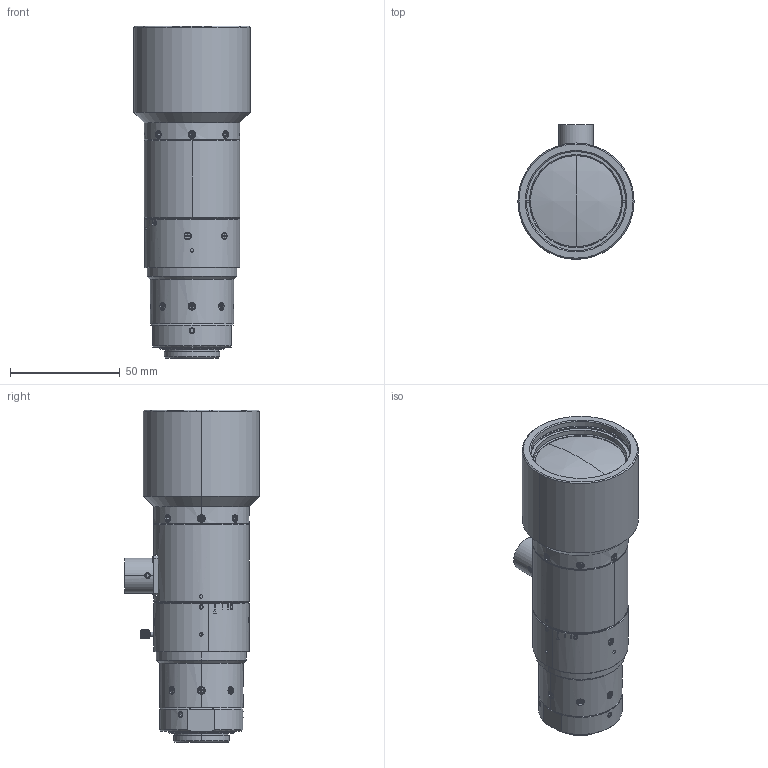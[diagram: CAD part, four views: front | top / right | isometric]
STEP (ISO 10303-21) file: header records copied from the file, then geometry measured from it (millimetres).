
FILE_DESCRIPTION (( 'STEP AP203' ), '1' );
FILE_NAME ('3d__MML08-SR110DVI-18C_a002.STEP', '2023-10-20T03:00:22', ( '' ), ( '' ), 'SwSTEP 2.0', 'SolidWorks 2020', '' );
FILE_SCHEMA (( 'CONFIG_CONTROL_DESIGN' ));
Length unit declared in the file: millimetre
Products named in the file (1): 3d__MML08-SR110DVI-18C_a002
Bounding box: 53 x 61.5 x 151.33 mm (x, y, z)
Volume: 224626 mm3; surface area: 31092.8 mm2
Topology: 1 solids, 20 shells, 1407 faces, 3525 edges, 2164 vertices
Faces by surface type: plane 580, cone 395, cylinder 242, bspline 78, torus 74, sphere 38
Entity records: 52822 total; most frequent: CARTESIAN_POINT 20338, ORIENTED_EDGE 6966, DIRECTION 6673, EDGE_CURVE 3483, AXIS2_PLACEMENT_3D 2781, VERTEX_POINT 2164, EDGE_LOOP 1495, CIRCLE 1451
